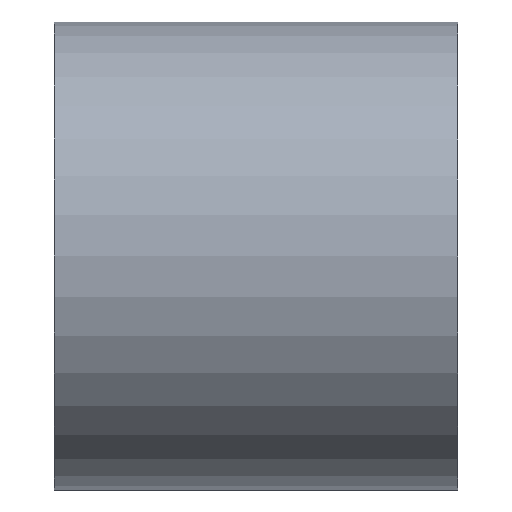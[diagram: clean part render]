
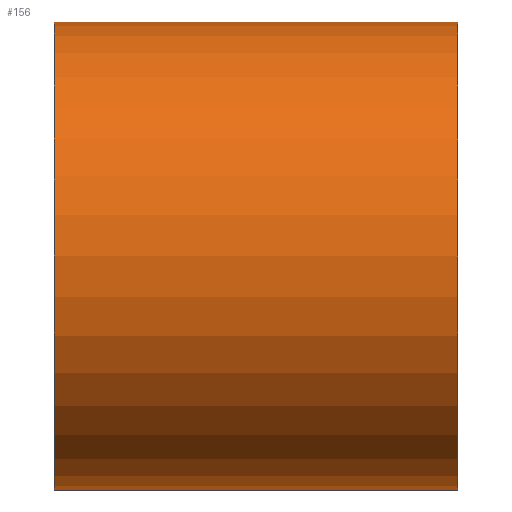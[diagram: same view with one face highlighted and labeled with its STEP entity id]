
A CAD part, front view. The second image highlights one B-rep face of the part: STEP entity #156.
In plain terms, the highlighted cylindrical face has radius 725 mm (diameter 1450 mm), a partial arc.
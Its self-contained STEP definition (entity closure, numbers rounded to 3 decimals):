
#156=ADVANCED_FACE('',(#308),#309,.T.);
#308=FACE_OUTER_BOUND('',#495,.T.);
#309=CYLINDRICAL_SURFACE('',#496,725.0);
#495=EDGE_LOOP('',(#891,#892,#893,#894));
#496=AXIS2_PLACEMENT_3D('',#895,#896,#897);
#891=ORIENTED_EDGE('',*,*,#995,.T.);
#892=ORIENTED_EDGE('',*,*,#1168,.F.);
#893=ORIENTED_EDGE('',*,*,#997,.T.);
#894=ORIENTED_EDGE('',*,*,#1169,.F.);
#895=CARTESIAN_POINT('',(0.0,0.0,0.0));
#896=DIRECTION('',(1.0,0.0,0.0));
#897=DIRECTION('',(0.0,0.0,-1.0));
#995=EDGE_CURVE('',#1173,#1174,#1175,.T.);
#997=EDGE_CURVE('',#1178,#1176,#1179,.T.);
#1168=EDGE_CURVE('',#1178,#1174,#1434,.T.);
#1169=EDGE_CURVE('',#1173,#1176,#1435,.T.);
#1173=VERTEX_POINT('',#1439);
#1174=VERTEX_POINT('',#1440);
#1175=LINE('',#1441,#1442);
#1176=VERTEX_POINT('',#1443);
#1178=VERTEX_POINT('',#1445);
#1179=LINE('',#1446,#1447);
#1434=CIRCLE('',#1744,725.0);
#1435=CIRCLE('',#1745,725.0);
#1439=CARTESIAN_POINT('',(-625.0,0.0,-725.0));
#1440=CARTESIAN_POINT('',(625.0,0.0,-725.0));
#1441=CARTESIAN_POINT('',(0.0,0.,-725.0));
#1442=VECTOR('',#1748,1.0);
#1443=CARTESIAN_POINT('',(-625.0,0.,725.0));
#1445=CARTESIAN_POINT('',(625.0,0.,725.0));
#1446=CARTESIAN_POINT('',(0.0,0.,725.0));
#1447=VECTOR('',#1752,1.0);
#1744=AXIS2_PLACEMENT_3D('',#2050,#2051,#2052);
#1745=AXIS2_PLACEMENT_3D('',#2053,#2054,#2055);
#1748=DIRECTION('',(1.0,0.0,0.0));
#1752=DIRECTION('',(-1.0,-0.0,-0.0));
#2050=CARTESIAN_POINT('',(625.0,0.0,0.0));
#2051=DIRECTION('',(1.0,0.0,0.0));
#2052=DIRECTION('',(0.0,0.0,-1.0));
#2053=CARTESIAN_POINT('',(-625.0,0.0,0.0));
#2054=DIRECTION('',(-1.0,0.0,0.0));
#2055=DIRECTION('',(0.0,0.0,-1.0));
